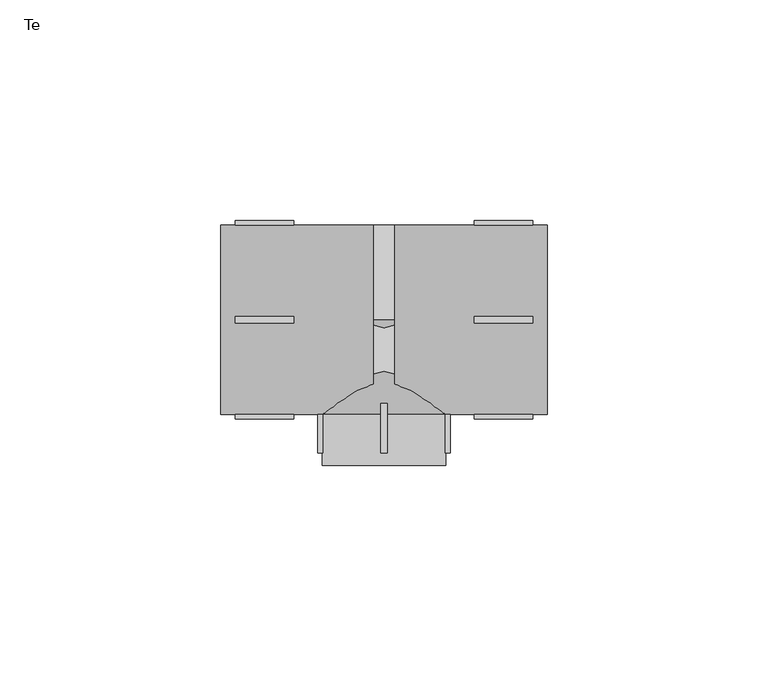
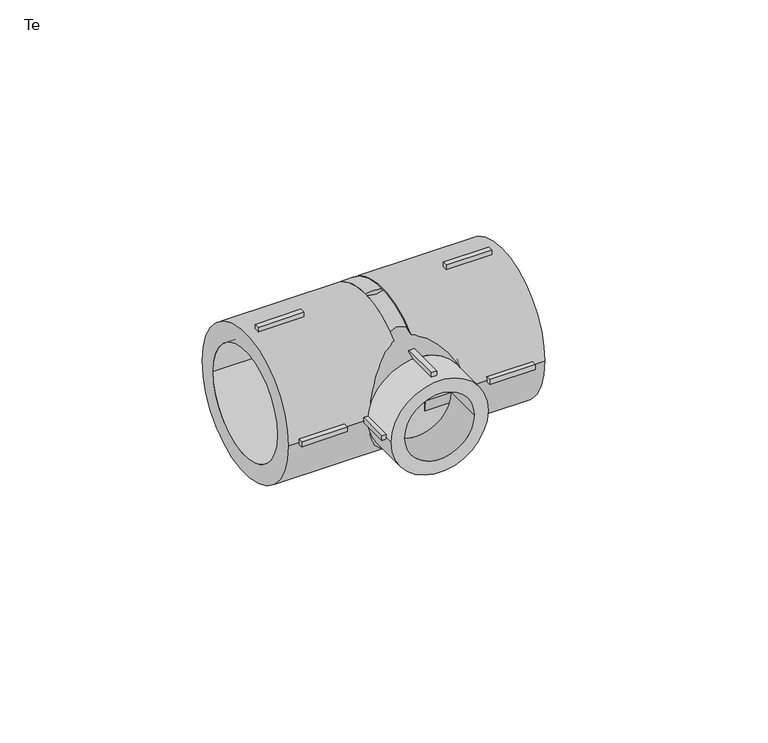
"""IFC4 building model written with IfcOpenShell, lengths in millimetres: pipe fitting geometry, EGB_VASEN_ PPR_Te WXR300_Te reducida WXR310 : Te."""

import ifcopenshell
import ifcopenshell.guid

model = None  # the IFC model being written
_history = None  # IfcOwnerHistory: only IFC2X3 demands one
_inside = {}  # id of a spatial element -> (the spatial element, [elements in it])
_under = {}  # id of a project, library or spatial element -> (it, [spatial elements below it])
_declared = {}  # id of a project -> (the project, [libraries it declares])
_typed = {}  # id of a type object -> (the type object, [elements of that type])
_made_of = {}  # id of a material, layer set ... -> (it, [elements and type objects made of it])


def new_model(schema):
    """Start an empty IFC model of exactly this schema.

    Asked for "IFC4X3", IfcOpenShell would pick the latest addendum, in which some entities
    have other attributes; the version numbers below select the first issue.
    IFC2X3 requires an IfcOwnerHistory on every rooted entity: one is made here for all.
    """
    global model, _history
    if schema == "IFC4X3":
        model = ifcopenshell.file(schema_version=(4, 3, 0, 0))
    else:
        model = ifcopenshell.file(schema=schema)
    _inside.clear()
    _under.clear()
    _declared.clear()
    _typed.clear()
    _made_of.clear()
    _history = None
    if model.schema == "IFC2X3":
        org = make("IfcOrganization", Name="unknown")
        user = make(
            "IfcPersonAndOrganization",
            ThePerson=make("IfcPerson", FamilyName="unknown"),
            TheOrganization=org,
        )
        app = make(
            "IfcApplication",
            ApplicationDeveloper=org,
            Version="unknown",
            ApplicationFullName="unknown",
            ApplicationIdentifier="unknown",
        )
        _history = make(
            "IfcOwnerHistory",
            OwningUser=user,
            OwningApplication=app,
            ChangeAction="ADDED",
            CreationDate=0,
        )
    return model


def make(cls, **values):
    """One entity of the class cls with the attributes given. An attribute that is None is left unset."""
    return model.create_entity(
        cls, **{name: value for name, value in values.items() if value is not None}
    )


def rooted(cls, **values):
    """An entity with a GlobalId (a new one), such as an element, a storey or a relation."""
    return make(cls, GlobalId=ifcopenshell.guid.new(), OwnerHistory=_history, **values)


def si_unit(unit_type, name, prefix=None):
    """IfcSIUnit, for example si_unit("LENGTHUNIT", "METRE", prefix="MILLI")."""
    return make("IfcSIUnit", UnitType=unit_type, Prefix=prefix, Name=name)


def assignment(units):
    """IfcUnitAssignment: the units of a project."""
    return None if units is None else make("IfcUnitAssignment", Units=units)


def point(xyz):
    """IfcCartesianPoint."""
    return None if xyz is None else make("IfcCartesianPoint", Coordinates=xyz)


def direction(xyz):
    """IfcDirection."""
    return None if xyz is None else make("IfcDirection", DirectionRatios=xyz)


def frame(location, z_axis=None, x_axis=None):
    """IfcAxis2Placement3D, a coordinate frame: its origin and axes. An axis left out is left unset."""
    return make(
        "IfcAxis2Placement3D",
        Location=point(location),
        Axis=direction(z_axis),
        RefDirection=direction(x_axis),
    )


def frame_2d(location, x_axis=None):
    """IfcAxis2Placement2D, a coordinate frame in the plane: its origin and x axis."""
    return make(
        "IfcAxis2Placement2D", Location=point(location), RefDirection=direction(x_axis)
    )


def origin():
    """The frame at (0, 0, 0) with its axes left unset."""
    return frame((0.0, 0.0, 0.0))


def origin_2d():
    """The frame at (0, 0) in the plane with its x axis left unset."""
    return frame_2d((0.0, 0.0))


def place(relative_to, where):
    """IfcLocalPlacement: puts the frame where relative to a parent placement (None: the world)."""
    return make(
        "IfcLocalPlacement", PlacementRelTo=relative_to, RelativePlacement=where
    )


def context(
    kind, dimensions, precision=None, world=None, true_north=None, identifier=None
):
    """IfcGeometricRepresentationContext, for example the 3D "Model" context."""
    return make(
        "IfcGeometricRepresentationContext",
        ContextIdentifier=identifier,
        ContextType=kind,
        CoordinateSpaceDimension=dimensions,
        Precision=precision,
        WorldCoordinateSystem=world,
        TrueNorth=true_north,
    )


def project(units=None, contexts=None):
    """IfcProject with its units and contexts."""
    return rooted(
        "IfcProject",
        Name="project",
        RepresentationContexts=contexts,
        UnitsInContext=assignment(units),
    )


def spatial(cls, under=None, at=None, **own):
    """A site, building, storey or space (cls), placed at a placement, below another one or the project."""
    s = rooted(cls, ObjectPlacement=at, **own)
    if under is not None:
        _under.setdefault(under.id(), (under, []))[1].append(s)
    return s


def polyline(points):
    """IfcPolyline through the points."""
    return make("IfcPolyline", Points=[point(p) for p in points])


def circle_curve(where, radius):
    """IfcCircle in the frame where."""
    return make("IfcCircle", Position=where, Radius=radius)


def trimmed(basis, trim1, trim2, sense, master):
    """IfcTrimmedCurve: the piece of a basis curve between two trims."""
    return make(
        "IfcTrimmedCurve",
        BasisCurve=basis,
        Trim1=trim1,
        Trim2=trim2,
        SenseAgreement=sense,
        MasterRepresentation=master,
    )


def segment(curve, same_sense, transition):
    """IfcCompositeCurveSegment."""
    return make(
        "IfcCompositeCurveSegment",
        Transition=transition,
        SameSense=same_sense,
        ParentCurve=curve,
    )


def composite_curve(segments, self_intersect=None):
    """IfcCompositeCurve: segments joined end to end."""
    return make("IfcCompositeCurve", Segments=segments, SelfIntersect=self_intersect)


def outline(outer, holes=None, kind="AREA"):
    """IfcArbitraryClosedProfileDef: a profile drawn as a closed curve; with holes, ...WithVoids."""
    if holes is None:
        return make("IfcArbitraryClosedProfileDef", ProfileType=kind, OuterCurve=outer)
    return make(
        "IfcArbitraryProfileDefWithVoids",
        ProfileType=kind,
        OuterCurve=outer,
        InnerCurves=holes,
    )


def extrude(swept, where, along, depth):
    """IfcExtrudedAreaSolid: the profile swept, set in the frame where, extruded along a direction by depth."""
    return make(
        "IfcExtrudedAreaSolid",
        SweptArea=swept,
        Position=where,
        ExtrudedDirection=direction(along),
        Depth=depth,
    )


def shape(context_of_items, identifier, shape_type, items):
    """IfcShapeRepresentation: the items that make up one representation, for example the "Body"."""
    return make(
        "IfcShapeRepresentation",
        ContextOfItems=context_of_items,
        RepresentationIdentifier=identifier,
        RepresentationType=shape_type,
        Items=items,
    )


def source(mapping_origin, context_of_items, identifier, shape_type, items):
    """IfcRepresentationMap: a shape defined once, which mapped items show again and again."""
    return make(
        "IfcRepresentationMap",
        MappingOrigin=mapping_origin,
        MappedRepresentation=shape(context_of_items, identifier, shape_type, items),
    )


def transform(
    local_origin,
    x_axis=None,
    y_axis=None,
    z_axis=None,
    scale=None,
    scale2=None,
    scale3=None,
    uniform=True,
):
    """IfcCartesianTransformationOperator3D, or its non-uniform kind. x_axis, y_axis, z_axis: its Axis1, 2, 3."""
    if uniform:
        return make(
            "IfcCartesianTransformationOperator3D",
            Axis1=direction(x_axis),
            Axis2=direction(y_axis),
            LocalOrigin=point(local_origin),
            Scale=scale,
            Axis3=direction(z_axis),
        )
    return make(
        "IfcCartesianTransformationOperator3DnonUniform",
        Axis1=direction(x_axis),
        Axis2=direction(y_axis),
        LocalOrigin=point(local_origin),
        Scale=scale,
        Axis3=direction(z_axis),
        Scale2=scale2,
        Scale3=scale3,
    )


def mapped(mapping_source, mapping_target):
    """IfcMappedItem: shows the shape of a source again, moved by a transform."""
    return make(
        "IfcMappedItem", MappingSource=mapping_source, MappingTarget=mapping_target
    )


def made_of(thing, what):
    """Note that an element or type object is made of a material, layer set ...; save() writes the relation."""
    if what is not None:
        _made_of.setdefault(what.id(), (what, []))[1].append(thing)
    return thing


def element(
    cls,
    number,
    at=None,
    inside=None,
    cuts=None,
    type_object=None,
    material=None,
    context=None,
    identifier="Body",
    shape_type=None,
    held_by="IfcProductDefinitionShape",
    body=None,
    shapes=None,
    **own,
):
    """One element of the class cls, such as IfcWall. Its Tag is "e" and its number.

    at: its placement. inside: the storey or other place that contains it. cuts: it is an
    opening in that element (IfcRelVoidsElement). A single representation is given by context,
    identifier, shape_type and body (its items); several are given by shapes. held_by: the class
    of the entity that holds the representations. save() writes the other relations.
    """
    e = rooted(cls, Tag="e%d" % number, ObjectPlacement=at, **own)
    if body is not None:
        shapes = [shape(context, identifier, shape_type, body)]
    if shapes is not None:
        e.Representation = make(held_by, Representations=shapes)
    if inside is not None:
        _inside.setdefault(inside.id(), (inside, []))[1].append(e)
    if cuts is not None:
        rooted(
            "IfcRelVoidsElement", RelatingBuildingElement=cuts, RelatedOpeningElement=e
        )
    if type_object is not None:
        _typed.setdefault(type_object.id(), (type_object, []))[1].append(e)
    return made_of(e, material)


def aggregate(whole, parts):
    """IfcRelAggregates: a whole, such as a stair, and the parts it consists of."""
    return rooted("IfcRelAggregates", RelatingObject=whole, RelatedObjects=parts)


def save(model, path):
    """Write the relations noted so far, then the file.

    IfcRelAggregates (storeys below a building ...), IfcRelContainedInSpatialStructure (elements
    in a storey), IfcRelDefinesByType, IfcRelAssociatesMaterial and IfcRelDeclares: one each for
    every whole, place, type object, material and project.
    """
    for whole, parts in _under.values():
        aggregate(whole, parts)
    for where, things in _inside.values():
        rooted(
            "IfcRelContainedInSpatialStructure",
            RelatedElements=things,
            RelatingStructure=where,
        )
    for kind, things in _typed.values():
        rooted("IfcRelDefinesByType", RelatedObjects=things, RelatingType=kind)
    for what, things in _made_of.values():
        rooted("IfcRelAssociatesMaterial", RelatedObjects=things, RelatingMaterial=what)
    for by, libraries in _declared.values():
        rooted("IfcRelDeclares", RelatingContext=by, RelatedDefinitions=libraries)
    model.write(path)


def plane_surface(at):
    """IfcPlane: the flat surface through the origin of the frame at, square to its z axis."""
    return make("IfcPlane", Position=at)


def revolved_surface(curve, axis_point, axis_direction):
    """IfcSurfaceOfRevolution: the curve turned about the line through axis_point along axis_direction."""
    return make(
        "IfcSurfaceOfRevolution",
        SweptCurve=make("IfcArbitraryOpenProfileDef", ProfileType="CURVE", Curve=curve),
        AxisPosition=make("IfcAxis1Placement", Location=point(axis_point), Axis=direction(axis_direction)),
    )


def advanced_brep(points, edges, surfaces, faces):
    """IfcAdvancedBrep: a solid bounded by faces that lie on surfaces and meet in shared edges.

    An edge is (start, end): straight between two places in points (the first is 0);
    or (start, end, curve); or (start, end, curve, False) where it runs against its curve.
    A face is (place in surfaces, loops), or (place, loops, False) where it looks against
    its surface's normal. A loop lists edges by number (the first is 1), with a minus sign
    where the edge is run from its end to its start. The first loop is the outer one.
    """
    corners = [point(p) for p in points]
    vertices = [make("IfcVertexPoint", VertexGeometry=c) for c in corners]
    made = []
    for start, end, *more in edges:
        made.append(
            make(
                "IfcEdgeCurve",
                EdgeStart=vertices[start],
                EdgeEnd=vertices[end],
                EdgeGeometry=more[0] if more else make("IfcPolyline", Points=[corners[start], corners[end]]),
                SameSense=more[1] if len(more) > 1 else True,
            )
        )
    hull = []
    for where, loops, *sense in faces:
        bounds = []
        for j, loop in enumerate(loops):
            ring = [make("IfcOrientedEdge", EdgeElement=made[abs(k) - 1], Orientation=k > 0) for k in loop]
            bounds.append(
                make(
                    "IfcFaceOuterBound" if j == 0 else "IfcFaceBound",
                    Bound=make("IfcEdgeLoop", EdgeList=ring),
                    Orientation=True,
                )
            )
        hull.append(make("IfcAdvancedFace", Bounds=bounds, FaceSurface=surfaces[where], SameSense=sense[0] if sense else True))
    return make("IfcAdvancedBrep", Outer=make("IfcClosedShell", CfsFaces=hull))


def te_cce3ff7c(model_context):
    return source(origin(), model_context, "Body", "SolidModel", [
        extrude(outline(polyline([(-0.75, -19.0), (0.75, -19.0), (0.75, -30.2), (-0.75, -30.2), (-0.75, -19.0)])), frame((0.0, 0.0, 13.0), z_axis=(0.0, 0.0, 1.0), x_axis=(1.0, 0.0, 0.0)), (0.0, 0.0, 1.0), 2.0),
        extrude(outline(polyline([(-0.75, -19.0), (0.75, -19.0), (0.75, -30.2), (-0.75, -30.2), (-0.75, -19.0)])), frame((0.0, 0.0, -15.0), z_axis=(0.0, 0.0, 1.0), x_axis=(1.0, 0.0, 0.0)), (0.0, 0.0, 1.0), 2.0),
        extrude(outline(polyline([(13.0, -19.0), (15.0, -19.0), (15.0, -30.2), (13.0, -30.2), (13.0, -19.0)])), frame((0.0, 0.0, -0.75), z_axis=(0.0, 0.0, 1.0), x_axis=(1.0, 0.0, 0.0)), (0.0, 0.0, 1.0), 1.5),
        extrude(outline(polyline([(-15.0, -19.0), (-13.0, -19.0), (-13.0, -30.2), (-15.0, -30.2), (-15.0, -19.0)])), frame((0.0, 0.0, -0.75), z_axis=(0.0, 0.0, 1.0), x_axis=(1.0, 0.0, 0.0)), (0.0, 0.0, 1.0), 1.5),
        extrude(outline(polyline([(20.5, -0.75), (20.5, 0.75), (33.7, 0.75), (33.7, -0.75), (20.5, -0.75)])), frame((0.0, 0.0, 20.5), z_axis=(0.0, 0.0, 1.0), x_axis=(1.0, 0.0, 0.0)), (0.0, 0.0, 1.0), 2.0),
        extrude(outline(polyline([(20.5, -0.75), (20.5, 0.75), (33.7, 0.75), (33.7, -0.75), (20.5, -0.75)])), frame((0.0, 0.0, -22.5), z_axis=(0.0, 0.0, 1.0), x_axis=(1.0, 0.0, 0.0)), (0.0, 0.0, 1.0), 2.0),
        extrude(outline(polyline([(20.5, 20.5), (20.5, 22.5), (33.7, 22.5), (33.7, 20.5), (20.5, 20.5)])), frame((0.0, 0.0, -0.75), z_axis=(0.0, 0.0, 1.0), x_axis=(1.0, 0.0, 0.0)), (0.0, 0.0, 1.0), 1.5),
        extrude(outline(polyline([(20.5, -22.5), (20.5, -20.5), (33.7, -20.5), (33.7, -22.5), (20.5, -22.5)])), frame((0.0, 0.0, -0.75), z_axis=(0.0, 0.0, 1.0), x_axis=(1.0, 0.0, 0.0)), (0.0, 0.0, 1.0), 1.5),
        extrude(outline(polyline([(-20.5, 0.75), (-20.5, -0.75), (-33.7, -0.75), (-33.7, 0.75), (-20.5, 0.75)])), frame((0.0, 0.0, 20.5), z_axis=(0.0, 0.0, 1.0), x_axis=(1.0, 0.0, 0.0)), (0.0, 0.0, 1.0), 2.0),
        extrude(outline(polyline([(-20.5, 0.75), (-20.5, -0.75), (-33.7, -0.75), (-33.7, 0.75), (-20.5, 0.75)])), frame((0.0, 0.0, -22.5), z_axis=(0.0, 0.0, 1.0), x_axis=(1.0, 0.0, 0.0)), (0.0, 0.0, 1.0), 2.0),
        extrude(outline(polyline([(-20.5, 22.5), (-20.5, 20.5), (-33.7, 20.5), (-33.7, 22.5), (-20.5, 22.5)])), frame((0.0, 0.0, -0.75), z_axis=(0.0, 0.0, 1.0), x_axis=(1.0, 0.0, 0.0)), (0.0, 0.0, 1.0), 1.5),
        extrude(outline(polyline([(-20.5, -20.5), (-20.5, -22.5), (-33.7, -22.5), (-33.7, -20.5), (-20.5, -20.5)])), frame((0.0, 0.0, -0.75), z_axis=(0.0, 0.0, 1.0), x_axis=(1.0, 0.0, 0.0)), (0.0, 0.0, 1.0), 1.5),
        extrude(outline(composite_curve([segment(trimmed(circle_curve(origin_2d(), 14.0), [point((0.0, 14.0))], [point((0.0, -14.0))], False, "CARTESIAN"), True, "CONTINUOUS"), segment(trimmed(circle_curve(origin_2d(), 14.0), [point((0.0, -14.0))], [point((0.0, 14.0))], False, "CARTESIAN"), True, "CONTINUOUS")], self_intersect=False), holes=[composite_curve([segment(trimmed(circle_curve(origin_2d(), 10.0), [point((0.0, 10.0))], [point((0.0, -10.0))], True, "CARTESIAN"), True, "CONTINUOUS"), segment(trimmed(circle_curve(origin_2d(), 10.0), [point((0.0, -10.0))], [point((0.0, 10.0))], True, "CARTESIAN"), True, "CONTINUOUS")], self_intersect=False)]), frame((0.0, -33.0, 0.0), z_axis=(0.0, 1.0, 0.0), x_axis=(0.0, 0.0, 1.0)), (0.0, 0.0, 1.0), 11.5),
        extrude(outline(composite_curve([segment(trimmed(circle_curve(origin_2d(), 21.5), [point((-21.5, 0.0))], [point((21.5, 0.0))], False, "CARTESIAN"), True, "CONTINUOUS"), segment(trimmed(circle_curve(origin_2d(), 21.5), [point((21.5, 0.0))], [point((-21.5, 0.0))], False, "CARTESIAN"), True, "CONTINUOUS")], self_intersect=False), holes=[composite_curve([segment(trimmed(circle_curve(origin_2d(), 16.0), [point((-16.0, 0.0))], [point((16.0, 0.0))], True, "CARTESIAN"), True, "CONTINUOUS"), segment(trimmed(circle_curve(origin_2d(), 16.0), [point((16.0, 0.0))], [point((-16.0, 0.0))], True, "CARTESIAN"), True, "CONTINUOUS")], self_intersect=False)]), frame((2.48, 0.0, 0.0), z_axis=(1.0, 0.0, 0.0), x_axis=(0.0, 1.0, 0.0)), (0.0, 0.0, 1.0), 34.52),
        extrude(outline(composite_curve([segment(trimmed(circle_curve(origin_2d(), 21.5), [point((-21.5, 0.0))], [point((21.5, 0.0))], False, "CARTESIAN"), True, "CONTINUOUS"), segment(trimmed(circle_curve(origin_2d(), 21.5), [point((21.5, 0.0))], [point((-21.5, 0.0))], False, "CARTESIAN"), True, "CONTINUOUS")], self_intersect=False), holes=[composite_curve([segment(trimmed(circle_curve(origin_2d(), 16.0), [point((-16.0, 0.0))], [point((16.0, 0.0))], True, "CARTESIAN"), True, "CONTINUOUS"), segment(trimmed(circle_curve(origin_2d(), 16.0), [point((16.0, 0.0))], [point((-16.0, 0.0))], True, "CARTESIAN"), True, "CONTINUOUS")], self_intersect=False)]), frame((-37.0, 0.0, 0.0), z_axis=(1.0, 0.0, 0.0), x_axis=(0.0, 1.0, 0.0)), (0.0, 0.0, 1.0), 34.52),
        advanced_brep(
        [(21.5, 0.0, 0.0), (-21.5, 0.0, 0.0), (14.0, -21.5, 0.0), (-14.0, -21.5, 0.0)],
        [
            (0, 1, circle_curve(frame((0.0, 0.0, 0.0), z_axis=(0.0, 1.0, 0.0), x_axis=(1.0, 0.0, 0.0)), 21.5)),
            (1, 0, circle_curve(frame((0.0, 0.0, 0.0), z_axis=(0.0, 1.0, 0.0), x_axis=(-1.0, 0.0, 0.0)), 21.5)),
            (2, 3, circle_curve(frame((0.0, -21.5, 0.0), z_axis=(0.0, -1.0, 0.0), x_axis=(-1.0, 0.0, 0.0)), 14.0)),
            (3, 2, circle_curve(frame((0.0, -21.5, 0.0), z_axis=(0.0, -1.0, 0.0), x_axis=(1.0, 0.0, 0.0)), 14.0)),
            (3, 1),
            (0, 2),
        ],
        [
            plane_surface(frame((0.0, 0.0, 0.0), z_axis=(0.0, 1.0, 0.0), x_axis=(0.0, 0.0, -1.0))),
            plane_surface(frame((0.0, -21.5, 0.0), z_axis=(0.0, -1.0, 0.0), x_axis=(0.0, 0.0, -1.0))),
            revolved_surface(polyline([(-13.999999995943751, -21.5, 0.0), (-21.5, 0.0, 0.0)]), (0.0, -61.6333333, 0.0), (0.0, 1.0, 0.0)),
            revolved_surface(polyline([(13.999999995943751, -21.5, 0.0), (21.5, 0.0, 0.0)]), (0.0, -61.6333333, 0.0), (0.0, 1.0, 0.0)),
        ],
        [
            (0, [[1, 2]]),
            (1, [[3, 4]]),
            (2, [[-4, 5, -1, 6]]),
            (3, [[-3, -6, -2, -5]]),
        ],
    ),
        extrude(outline(composite_curve([segment(trimmed(circle_curve(origin_2d(), 21.5), [point((-21.5, 0.0))], [point((21.5, 0.0))], False, "CARTESIAN"), True, "CONTINUOUS"), segment(trimmed(circle_curve(origin_2d(), 21.5), [point((21.5, 0.0))], [point((-21.5, 0.0))], False, "CARTESIAN"), True, "CONTINUOUS")], self_intersect=False)), frame((-2.48, 0.0, 0.0), z_axis=(1.0, 0.0, 0.0), x_axis=(0.0, 1.0, 0.0)), (0.0, 0.0, 1.0), 4.96),
    ])


if __name__ == "__main__":
    model = new_model("IFC4")
    model_context = context("Model", 3, world=origin())
    ifc_project = project(units=[si_unit("LENGTHUNIT", "METRE", prefix="MILLI")], contexts=[model_context])
    site = spatial("IfcSite", under=ifc_project)
    building = spatial("IfcBuilding", under=site)
    placement = place(None, origin())
    te_shape = te_cce3ff7c(model_context)
    element("IfcPipeFitting", 1, ObjectType="EGB_VASEN_ PPR_Te WXR300_Te reducida WXR310 : Te", at=placement, inside=building, context=model_context, shape_type="MappedRepresentation", body=[
        mapped(te_shape, transform((0.0, 0.0, 0.0), x_axis=(1.0, 0.0, 0.0), y_axis=(0.0, 1.0, 0.0), z_axis=(0.0, 0.0, 1.0))),
    ])
    save(model, "model.ifc")
